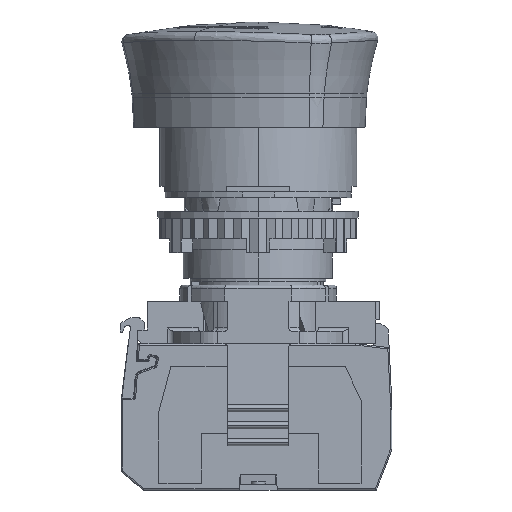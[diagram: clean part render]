
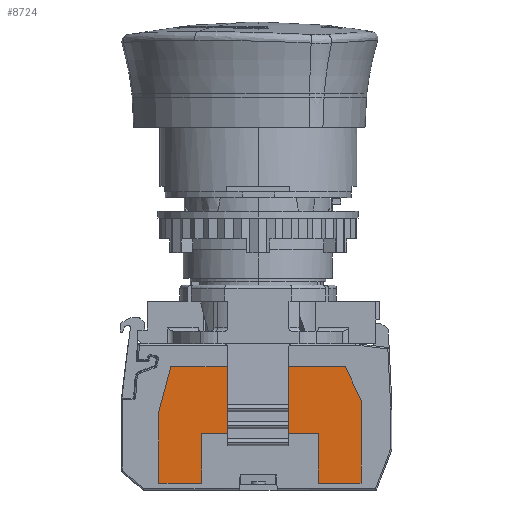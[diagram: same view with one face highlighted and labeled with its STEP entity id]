
A CAD part, left-side view. The second image highlights one B-rep face of the part: STEP entity #8724.
In plain terms, the highlighted planar face has unit normal (-1, 0, 0).
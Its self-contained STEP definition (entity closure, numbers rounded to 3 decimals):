
#8724=ADVANCED_FACE('Solide.13 (  de JELE 88964 : issu de *SOL14 - wsp *MASTER -  ) ( Brep de *SOL14 )',(#18033),#18034,.T.);
#18033=FACE_OUTER_BOUND('',#34903,.T.);
#18034=PLANE('',#34904);
#34903=EDGE_LOOP('',(#61404,#61405,#61406,#61407,#61408,#61409,#61410,#61411,#61412,#61413));
#34904=AXIS2_PLACEMENT_3D('',#61414,#61415,#61416);
#61404=ORIENTED_EDGE('',*,*,#67399,.F.);
#61405=ORIENTED_EDGE('',*,*,#72901,.T.);
#61406=ORIENTED_EDGE('',*,*,#66860,.T.);
#61407=ORIENTED_EDGE('',*,*,#72482,.F.);
#61408=ORIENTED_EDGE('',*,*,#76399,.F.);
#61409=ORIENTED_EDGE('',*,*,#73373,.F.);
#61410=ORIENTED_EDGE('',*,*,#74664,.F.);
#61411=ORIENTED_EDGE('',*,*,#72090,.T.);
#61412=ORIENTED_EDGE('',*,*,#67562,.T.);
#61413=ORIENTED_EDGE('',*,*,#74814,.F.);
#61414=CARTESIAN_POINT('',(-4.75,0.,-43.1));
#61415=DIRECTION('',(-1.0,0.0,0.0));
#61416=DIRECTION('',(0.0,0.0,1.0));
#66860=EDGE_CURVE('Solide.13 (  de JELE 88964 : issu de *SOL14 - wsp *MASTER -  ) ( Brep de *SOL14 )',#78851,#78849,#78852,.T.);
#67399=EDGE_CURVE('Solide.13 (  de JELE 88964 : issu de *SOL14 - wsp *MASTER -  ) ( Brep de *SOL14 )',#79760,#79755,#79762,.T.);
#67562=EDGE_CURVE('Solide.13 (  de JELE 88964 : issu de *SOL14 - wsp *MASTER -  ) ( Brep de *SOL14 )',#80029,#80027,#80030,.T.);
#72090=EDGE_CURVE('Solide.13 (  de JELE 88964 : issu de *SOL14 - wsp *MASTER -  ) ( Brep de *SOL14 )',#87204,#80029,#87205,.T.);
#72482=EDGE_CURVE('Solide.13 (  de JELE 88964 : issu de *SOL14 - wsp *MASTER -  ) ( Brep de *SOL14 )',#87758,#78849,#87760,.T.);
#72901=EDGE_CURVE('Solide.13 (  de JELE 88964 : issu de *SOL14 - wsp *MASTER -  ) ( Brep de *SOL14 )',#79760,#78851,#88347,.T.);
#73373=EDGE_CURVE('Solide.13 (  de JELE 88964 : issu de *SOL14 - wsp *MASTER -  ) ( Brep de *SOL14 )',#89044,#89039,#89046,.T.);
#74664=EDGE_CURVE('Solide.13 (  de JELE 88964 : issu de *SOL14 - wsp *MASTER -  ) ( Brep de *SOL14 )',#87204,#89044,#90740,.T.);
#74814=EDGE_CURVE('Solide.13 (  de JELE 88964 : issu de *SOL14 - wsp *MASTER -  ) ( Brep de *SOL14 )',#79755,#80027,#90919,.T.);
#76399=EDGE_CURVE('Solide.13 (  de JELE 88964 : issu de *SOL14 - wsp *MASTER -  ) ( Brep de *SOL14 )',#89039,#87758,#92763,.T.);
#78849=VERTEX_POINT('',#96589);
#78851=VERTEX_POINT('',#96592);
#78852=LINE('',#96593,#96594);
#79755=VERTEX_POINT('',#98209);
#79760=VERTEX_POINT('',#98216);
#79762=LINE('',#98219,#98220);
#80027=VERTEX_POINT('',#98712);
#80029=VERTEX_POINT('',#98715);
#80030=LINE('',#98716,#98717);
#87204=VERTEX_POINT('',#111543);
#87205=LINE('',#111544,#111545);
#87758=VERTEX_POINT('',#112501);
#87760=LINE('',#112504,#112505);
#88347=LINE('',#113662,#113663);
#89039=VERTEX_POINT('',#114969);
#89044=VERTEX_POINT('',#114976);
#89046=LINE('',#114979,#114980);
#90740=LINE('',#118172,#118173);
#90919=LINE('',#118509,#118510);
#92763=LINE('',#121826,#121827);
#96589=CARTESIAN_POINT('',(-4.75,-15.1,-42.1));
#96592=CARTESIAN_POINT('',(-4.75,-8.8,-42.1));
#96593=CARTESIAN_POINT('',(-4.75,-11.95,-42.1));
#96594=VECTOR('',#123842,1.0);
#98209=CARTESIAN_POINT('',(-4.75,8.3,-34.8));
#98216=CARTESIAN_POINT('',(-4.75,-8.8,-34.8));
#98219=CARTESIAN_POINT('',(-4.75,-0.25,-34.8));
#98220=VECTOR('',#124329,1.0);
#98712=CARTESIAN_POINT('',(-4.75,8.3,-42.1));
#98715=CARTESIAN_POINT('',(-4.75,14.6,-42.1));
#98716=CARTESIAN_POINT('',(-4.75,11.45,-42.1));
#98717=VECTOR('',#124468,1.0);
#111543=CARTESIAN_POINT('',(-4.75,14.6,-31.623));
#111544=CARTESIAN_POINT('',(-4.75,14.6,-36.861));
#111545=VECTOR('',#128611,1.0);
#112501=CARTESIAN_POINT('',(-4.75,-15.1,-29.921));
#112504=CARTESIAN_POINT('',(-4.75,-15.1,-36.011));
#112505=VECTOR('',#128992,1.0);
#113662=CARTESIAN_POINT('',(-4.75,-8.8,-38.45));
#113663=VECTOR('',#129330,1.0);
#114969=CARTESIAN_POINT('',(-4.75,-12.805,-25.0));
#114976=CARTESIAN_POINT('',(-4.75,12.825,-25.0));
#114979=CARTESIAN_POINT('',(-4.75,0.01,-25.0));
#114980=VECTOR('',#129718,1.0);
#118172=CARTESIAN_POINT('',(-4.75,13.713,-28.311));
#118173=VECTOR('',#130754,1.0);
#118509=CARTESIAN_POINT('',(-4.75,8.3,-38.45));
#118510=VECTOR('',#130870,1.0);
#121826=CARTESIAN_POINT('',(-4.75,-13.953,-27.461));
#121827=VECTOR('',#131950,1.0);
#123842=DIRECTION('',(0.0,-1.0,0.0));
#124329=DIRECTION('',(0.0,1.0,0.0));
#124468=DIRECTION('',(0.0,-1.0,0.0));
#128611=DIRECTION('',(0.0,0.,-1.0));
#128992=DIRECTION('',(0.0,0.0,-1.0));
#129330=DIRECTION('',(0.0,0.0,-1.0));
#129718=DIRECTION('',(0.0,-1.0,0.0));
#130754=DIRECTION('',(0.0,-0.259,0.966));
#130870=DIRECTION('',(0.0,0.0,-1.0));
#131950=DIRECTION('',(0.0,-0.423,-0.906));
